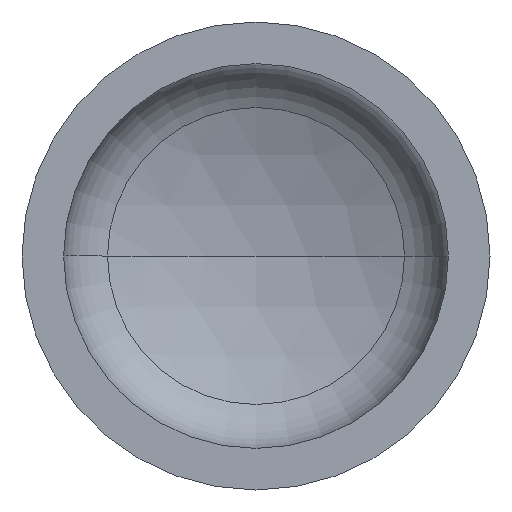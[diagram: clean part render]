
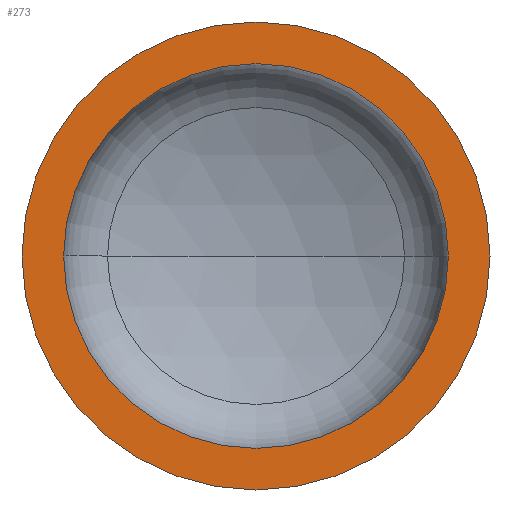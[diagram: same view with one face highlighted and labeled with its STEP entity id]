
A CAD part, front view. The second image highlights one B-rep face of the part: STEP entity #273.
In plain terms, the highlighted planar face has unit normal (0, -1, 0).
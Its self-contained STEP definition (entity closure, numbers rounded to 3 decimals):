
#7 = EDGE_LOOP ( 'NONE', ( #93, #268 ) ) ;
#10 = AXIS2_PLACEMENT_3D ( 'NONE', #326, #249, #177 ) ;
#11 = ORIENTED_EDGE ( 'NONE', *, *, #351, .F. ) ;
#24 = AXIS2_PLACEMENT_3D ( 'NONE', #49, #188, #51 ) ;
#31 = VERTEX_POINT ( 'NONE', #255 ) ;
#40 = EDGE_LOOP ( 'NONE', ( #41, #11 ) ) ;
#41 = ORIENTED_EDGE ( 'NONE', *, *, #125, .F. ) ;
#49 = CARTESIAN_POINT ( 'NONE',  ( -450., 0., 0. ) ) ;
#51 = DIRECTION ( 'NONE',  ( -1., 0., 0. ) ) ;
#63 = PLANE ( 'NONE',  #24 ) ;
#87 = AXIS2_PLACEMENT_3D ( 'NONE', #310, #308, #314 ) ;
#89 = AXIS2_PLACEMENT_3D ( 'NONE', #360, #355, #229 ) ;
#93 = ORIENTED_EDGE ( 'NONE', *, *, #372, .T. ) ;
#107 = VERTEX_POINT ( 'NONE', #369 ) ;
#120 = VERTEX_POINT ( 'NONE', #341 ) ;
#121 = EDGE_CURVE ( 'NONE', #107, #329, #377, .T. ) ;
#125 = EDGE_CURVE ( 'NONE', #120, #31, #261, .T. ) ;
#155 = AXIS2_PLACEMENT_3D ( 'NONE', #358, #213, #380 ) ;
#158 = FACE_BOUND ( 'NONE', #40, .T. ) ;
#177 = DIRECTION ( 'NONE',  ( 1., 0., 0. ) ) ;
#183 = CARTESIAN_POINT ( 'NONE',  ( 450., 0., 0. ) ) ;
#188 = DIRECTION ( 'NONE',  ( 0., 1., 0. ) ) ;
#213 = DIRECTION ( 'NONE',  ( 0., -1., 0. ) ) ;
#228 = FACE_OUTER_BOUND ( 'NONE', #7, .T. ) ;
#229 = DIRECTION ( 'NONE',  ( 1., 0., 0. ) ) ;
#249 = DIRECTION ( 'NONE',  ( 0., -1., 0. ) ) ;
#255 = CARTESIAN_POINT ( 'NONE',  ( -370., 0., 0. ) ) ;
#261 = CIRCLE ( 'NONE', #87, 370. ) ;
#268 = ORIENTED_EDGE ( 'NONE', *, *, #121, .T. ) ;
#273 = ADVANCED_FACE ( 'NONE', ( #158, #228 ), #63, .F. ) ;
#308 = DIRECTION ( 'NONE',  ( 0., -1., 0. ) ) ;
#310 = CARTESIAN_POINT ( 'NONE',  ( 0., 0., 0. ) ) ;
#314 = DIRECTION ( 'NONE',  ( 1., 0., 0. ) ) ;
#326 = CARTESIAN_POINT ( 'NONE',  ( 0., 0., 0. ) ) ;
#329 = VERTEX_POINT ( 'NONE', #183 ) ;
#341 = CARTESIAN_POINT ( 'NONE',  ( 370., 0., 0. ) ) ;
#351 = EDGE_CURVE ( 'NONE', #31, #120, #392, .T. ) ;
#355 = DIRECTION ( 'NONE',  ( 0., -1., 0. ) ) ;
#358 = CARTESIAN_POINT ( 'NONE',  ( 0., 0., 0. ) ) ;
#360 = CARTESIAN_POINT ( 'NONE',  ( 0., 0., 0. ) ) ;
#369 = CARTESIAN_POINT ( 'NONE',  ( -450., 0., 0. ) ) ;
#372 = EDGE_CURVE ( 'NONE', #329, #107, #378, .T. ) ;
#377 = CIRCLE ( 'NONE', #89, 450. ) ;
#378 = CIRCLE ( 'NONE', #155, 450. ) ;
#380 = DIRECTION ( 'NONE',  ( 1., 0., 0. ) ) ;
#392 = CIRCLE ( 'NONE', #10, 370. ) ;
